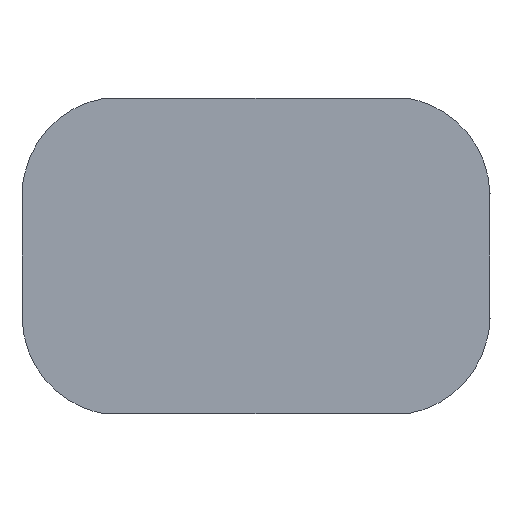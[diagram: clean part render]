
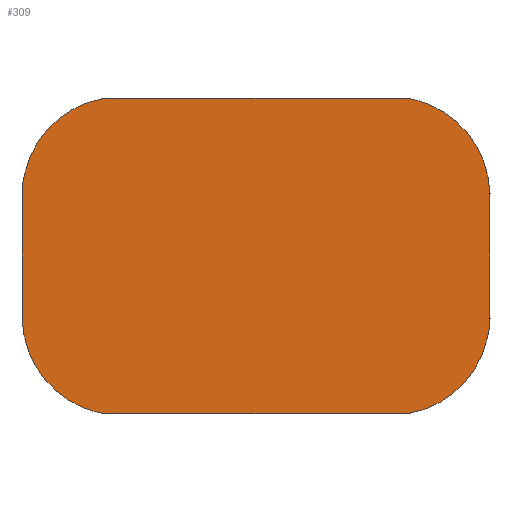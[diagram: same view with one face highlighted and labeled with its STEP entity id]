
A CAD part, front view. The second image highlights one B-rep face of the part: STEP entity #309.
In plain terms, the highlighted planar face has unit normal (0, -1, 0).
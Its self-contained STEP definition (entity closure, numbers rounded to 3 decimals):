
#137 = VERTEX_POINT( '', #356 );
#145 = VERTEX_POINT( '', #365 );
#159 = EDGE_CURVE( '', #261, #145, #380, .T. );
#167 = EDGE_CURVE( '', #233, #315, #390, .T. );
#179 = EDGE_CURVE( '', #261, #239, #402, .T. );
#183 = VERTEX_POINT( '', #406 );
#189 = VERTEX_POINT( '', #416 );
#201 = VERTEX_POINT( '', #429 );
#223 = VERTEX_POINT( '', #454 );
#233 = VERTEX_POINT( '', #466 );
#239 = VERTEX_POINT( '', #473 );
#243 = VERTEX_POINT( '', #477 );
#245 = EDGE_CURVE( '', #183, #259, #479, .T. );
#247 = EDGE_CURVE( '', #233, #183, #481, .T. );
#249 = EDGE_CURVE( '', #201, #315, #483, .T. );
#253 = EDGE_CURVE( '', #243, #145, #487, .T. );
#259 = VERTEX_POINT( '', #493 );
#261 = VERTEX_POINT( '', #495 );
#273 = EDGE_CURVE( '', #189, #201, #509, .T. );
#281 = EDGE_CURVE( '', #223, #189, #518, .T. );
#289 = EDGE_CURVE( '', #259, #137, #526, .T. );
#309 = ADVANCED_FACE( '', ( #547 ), #548, .F. );
#315 = VERTEX_POINT( '', #555 );
#319 = EDGE_CURVE( '', #137, #243, #559, .T. );
#325 = EDGE_CURVE( '', #239, #223, #565, .T. );
#356 = CARTESIAN_POINT( '', ( 26.75, -30., 5. ) );
#365 = CARTESIAN_POINT( '', ( 20.215, -30., 12.65 ) );
#380 = LINE( '', #627, #628 );
#390 = LINE( '', #641, #642 );
#402 = ELLIPSE( '', #667, 8.129, 8. );
#406 = CARTESIAN_POINT( '', ( 26.781, -30., -5. ) );
#416 = CARTESIAN_POINT( '', ( -10.75, -30., -5. ) );
#429 = CARTESIAN_POINT( '', ( -10.781, -30., -5. ) );
#454 = CARTESIAN_POINT( '', ( -10.75, -30., 5. ) );
#466 = CARTESIAN_POINT( '', ( 20.215, -30., -12.65 ) );
#473 = CARTESIAN_POINT( '', ( -10.781, -30., 5. ) );
#477 = CARTESIAN_POINT( '', ( 26.781, -30., 5. ) );
#479 = LINE( '', #784, #785 );
#481 = ELLIPSE( '', #788, 8.129, 8. );
#483 = ELLIPSE( '', #791, 8.129, 8. );
#487 = ELLIPSE( '', #797, 8.129, 8. );
#493 = CARTESIAN_POINT( '', ( 26.75, -30., -5. ) );
#495 = CARTESIAN_POINT( '', ( -4.215, -30., 12.65 ) );
#509 = LINE( '', #826, #827 );
#518 = LINE( '', #836, #837 );
#526 = LINE( '', #850, #851 );
#547 = FACE_OUTER_BOUND( '', #877, .T. );
#548 = PLANE( '', #878 );
#555 = CARTESIAN_POINT( '', ( -4.215, -30., -12.65 ) );
#559 = LINE( '', #892, #893 );
#565 = LINE( '', #901, #902 );
#627 = CARTESIAN_POINT( '', ( -12., -30., 12.65 ) );
#628 = VECTOR( '', #943, 1. );
#641 = CARTESIAN_POINT( '', ( 27.5, -30., -12.65 ) );
#642 = VECTOR( '', #962, 1. );
#667 = AXIS2_PLACEMENT_3D( '', #964, #965, #966 );
#784 = CARTESIAN_POINT( '', ( 0., -30., -5. ) );
#785 = VECTOR( '', #1065, 1. );
#788 = AXIS2_PLACEMENT_3D( '', #1066, #1067, #1068 );
#791 = AXIS2_PLACEMENT_3D( '', #1069, #1070, #1071 );
#797 = AXIS2_PLACEMENT_3D( '', #1075, #1076, #1077 );
#826 = CARTESIAN_POINT( '', ( 0., -30., -5. ) );
#827 = VECTOR( '', #1102, 1. );
#836 = CARTESIAN_POINT( '', ( -10.75, -30., 2.5 ) );
#837 = VECTOR( '', #1112, 1. );
#850 = CARTESIAN_POINT( '', ( 26.75, -30., 2.5 ) );
#851 = VECTOR( '', #1120, 1. );
#877 = EDGE_LOOP( '', ( #1135, #1136, #1137, #1138, #1139, #1140, #1141, #1142, #1143, #1144, #1145, #1146 ) );
#878 = AXIS2_PLACEMENT_3D( '', #1147, #1148, #1149 );
#892 = CARTESIAN_POINT( '', ( 0., -30., 5. ) );
#893 = VECTOR( '', #1160, 1. );
#901 = CARTESIAN_POINT( '', ( 0., -30., 5. ) );
#902 = VECTOR( '', #1164, 1. );
#943 = DIRECTION( '', ( 1., 0., 0. ) );
#962 = DIRECTION( '', ( -1., 0., 0. ) );
#964 = CARTESIAN_POINT( '', ( -2.75, -30., 4.669 ) );
#965 = DIRECTION( '', ( 0., -1., 0. ) );
#966 = DIRECTION( '', ( -0.507, 0., 0.862 ) );
#1065 = DIRECTION( '', ( -1., 0., 0. ) );
#1066 = CARTESIAN_POINT( '', ( 18.75, -30., -4.669 ) );
#1067 = DIRECTION( '', ( 0., -1., 0. ) );
#1068 = DIRECTION( '', ( 0.507, 0., -0.862 ) );
#1069 = CARTESIAN_POINT( '', ( -2.75, -30., -4.669 ) );
#1070 = DIRECTION( '', ( 0., -1., 0. ) );
#1071 = DIRECTION( '', ( -0.507, 0., -0.862 ) );
#1075 = CARTESIAN_POINT( '', ( 18.75, -30., 4.669 ) );
#1076 = DIRECTION( '', ( 0., -1., 0. ) );
#1077 = DIRECTION( '', ( 0.507, 0., 0.862 ) );
#1102 = DIRECTION( '', ( -1., 0., 0. ) );
#1112 = DIRECTION( '', ( 0., 0., -1. ) );
#1120 = DIRECTION( '', ( 0., 0., 1. ) );
#1135 = ORIENTED_EDGE( '', *, *, #325, .T. );
#1136 = ORIENTED_EDGE( '', *, *, #281, .T. );
#1137 = ORIENTED_EDGE( '', *, *, #273, .T. );
#1138 = ORIENTED_EDGE( '', *, *, #249, .T. );
#1139 = ORIENTED_EDGE( '', *, *, #167, .F. );
#1140 = ORIENTED_EDGE( '', *, *, #247, .T. );
#1141 = ORIENTED_EDGE( '', *, *, #245, .T. );
#1142 = ORIENTED_EDGE( '', *, *, #289, .T. );
#1143 = ORIENTED_EDGE( '', *, *, #319, .T. );
#1144 = ORIENTED_EDGE( '', *, *, #253, .T. );
#1145 = ORIENTED_EDGE( '', *, *, #159, .F. );
#1146 = ORIENTED_EDGE( '', *, *, #179, .T. );
#1147 = CARTESIAN_POINT( '', ( 0., -30., 0. ) );
#1148 = DIRECTION( '', ( 0., 1., 0. ) );
#1149 = DIRECTION( '', ( 0., 0., 1. ) );
#1160 = DIRECTION( '', ( 1., 0., 0. ) );
#1164 = DIRECTION( '', ( 1., 0., 0. ) );
